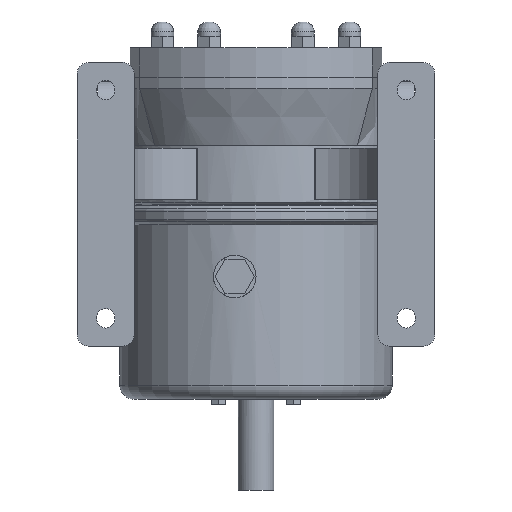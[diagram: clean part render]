
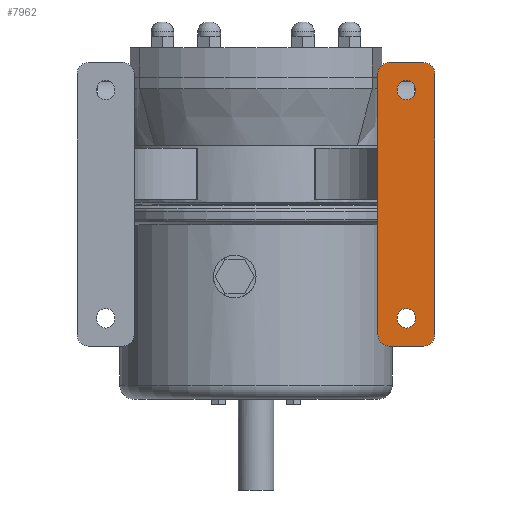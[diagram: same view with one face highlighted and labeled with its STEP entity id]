
A CAD part, front view. The second image highlights one B-rep face of the part: STEP entity #7962.
In plain terms, the highlighted planar face has unit normal (0, -1, 0).
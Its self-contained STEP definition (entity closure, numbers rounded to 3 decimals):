
#7815=CARTESIAN_POINT('',(106.,-158.,-110.5));
#7816=DIRECTION('',(0.0,1.0,0.0));
#7817=DIRECTION('',(0.0,0.0,1.0));
#7818=AXIS2_PLACEMENT_3D('',#7815,#7816,#7817);
#7819=PLANE('',#7818);
#7820=CARTESIAN_POINT('',(86.,-158.,-18.5));
#7821=VERTEX_POINT('',#7820);
#7822=CARTESIAN_POINT('',(94.,-158.,-10.5));
#7823=VERTEX_POINT('',#7822);
#7824=CARTESIAN_POINT('',(94.,-158.,-18.5));
#7825=DIRECTION('',(0.0,1.0,0.0));
#7826=DIRECTION('',(0.0,0.0,1.0));
#7827=AXIS2_PLACEMENT_3D('',#7824,#7825,#7826);
#7828=CIRCLE('',#7827,8.);
#7829=EDGE_CURVE('',#7821,#7823,#7828,.T.);
#7830=ORIENTED_EDGE('',*,*,#7829,.F.);
#7831=CARTESIAN_POINT('',(86.,-158.,-202.5));
#7832=VERTEX_POINT('',#7831);
#7833=CARTESIAN_POINT('',(86.,-158.,-202.5));
#7834=DIRECTION('',(0.0,0.0,1.0));
#7835=VECTOR('',#7834,184.0);
#7836=LINE('',#7833,#7835);
#7837=EDGE_CURVE('',#7832,#7821,#7836,.T.);
#7838=ORIENTED_EDGE('',*,*,#7837,.F.);
#7839=CARTESIAN_POINT('',(94.,-158.,-210.5));
#7840=VERTEX_POINT('',#7839);
#7841=CARTESIAN_POINT('',(94.,-158.,-202.5));
#7842=DIRECTION('',(0.0,1.0,0.0));
#7843=DIRECTION('',(-1.0,0.0,0.0));
#7844=AXIS2_PLACEMENT_3D('',#7841,#7842,#7843);
#7845=CIRCLE('',#7844,8.);
#7846=EDGE_CURVE('',#7840,#7832,#7845,.T.);
#7847=ORIENTED_EDGE('',*,*,#7846,.F.);
#7848=CARTESIAN_POINT('',(118.,-158.,-210.5));
#7849=VERTEX_POINT('',#7848);
#7850=CARTESIAN_POINT('',(118.,-158.,-210.5));
#7851=DIRECTION('',(-1.0,0.0,0.0));
#7852=VECTOR('',#7851,24.);
#7853=LINE('',#7850,#7852);
#7854=EDGE_CURVE('',#7849,#7840,#7853,.T.);
#7855=ORIENTED_EDGE('',*,*,#7854,.F.);
#7856=CARTESIAN_POINT('',(126.,-158.,-202.5));
#7857=VERTEX_POINT('',#7856);
#7858=CARTESIAN_POINT('',(118.,-158.,-202.5));
#7859=DIRECTION('',(0.0,1.0,0.0));
#7860=DIRECTION('',(0.0,0.0,-1.0));
#7861=AXIS2_PLACEMENT_3D('',#7858,#7859,#7860);
#7862=CIRCLE('',#7861,8.);
#7863=EDGE_CURVE('',#7857,#7849,#7862,.T.);
#7864=ORIENTED_EDGE('',*,*,#7863,.F.);
#7865=CARTESIAN_POINT('',(126.,-158.,-18.5));
#7866=VERTEX_POINT('',#7865);
#7867=CARTESIAN_POINT('',(126.,-158.,-18.5));
#7868=DIRECTION('',(0.0,0.0,-1.0));
#7869=VECTOR('',#7868,184.0);
#7870=LINE('',#7867,#7869);
#7871=EDGE_CURVE('',#7866,#7857,#7870,.T.);
#7872=ORIENTED_EDGE('',*,*,#7871,.F.);
#7873=CARTESIAN_POINT('',(118.,-158.,-10.5));
#7874=VERTEX_POINT('',#7873);
#7875=CARTESIAN_POINT('',(118.,-158.,-18.5));
#7876=DIRECTION('',(0.0,1.0,0.0));
#7877=DIRECTION('',(1.0,0.0,0.0));
#7878=AXIS2_PLACEMENT_3D('',#7875,#7876,#7877);
#7879=CIRCLE('',#7878,8.);
#7880=EDGE_CURVE('',#7874,#7866,#7879,.T.);
#7881=ORIENTED_EDGE('',*,*,#7880,.F.);
#7882=CARTESIAN_POINT('',(94.,-158.,-10.5));
#7883=DIRECTION('',(1.0,0.0,0.0));
#7884=VECTOR('',#7883,24.);
#7885=LINE('',#7882,#7884);
#7886=EDGE_CURVE('',#7823,#7874,#7885,.T.);
#7887=ORIENTED_EDGE('',*,*,#7886,.F.);
#7888=EDGE_LOOP('',(#7830,#7838,#7847,#7855,#7864,#7872,#7881,#7887));
#7889=FACE_OUTER_BOUND('',#7888,.T.);
#7890=CARTESIAN_POINT('',(99.5,-158.,-190.5));
#7891=VERTEX_POINT('',#7890);
#7892=CARTESIAN_POINT('',(112.5,-158.,-190.5));
#7893=VERTEX_POINT('',#7892);
#7894=CARTESIAN_POINT('',(106.,-158.,-190.5));
#7895=DIRECTION('',(0.0,1.0,0.0));
#7896=DIRECTION('',(1.0,0.0,0.0));
#7897=AXIS2_PLACEMENT_3D('',#7894,#7895,#7896);
#7898=CIRCLE('',#7897,6.5);
#7899=EDGE_CURVE('',#7891,#7893,#7898,.T.);
#7900=ORIENTED_EDGE('',*,*,#7899,.T.);
#7901=CARTESIAN_POINT('',(112.5,-158.,-191.3));
#7902=VERTEX_POINT('',#7901);
#7903=CARTESIAN_POINT('',(112.5,-158.,-190.5));
#7904=DIRECTION('',(0.0,0.0,-1.0));
#7905=VECTOR('',#7904,0.8);
#7906=LINE('',#7903,#7905);
#7907=EDGE_CURVE('',#7893,#7902,#7906,.T.);
#7908=ORIENTED_EDGE('',*,*,#7907,.T.);
#7909=CARTESIAN_POINT('',(99.5,-158.,-191.3));
#7910=VERTEX_POINT('',#7909);
#7911=CARTESIAN_POINT('',(106.,-158.,-191.3));
#7912=DIRECTION('',(0.0,1.0,0.0));
#7913=DIRECTION('',(-1.0,0.0,0.0));
#7914=AXIS2_PLACEMENT_3D('',#7911,#7912,#7913);
#7915=CIRCLE('',#7914,6.5);
#7916=EDGE_CURVE('',#7902,#7910,#7915,.T.);
#7917=ORIENTED_EDGE('',*,*,#7916,.T.);
#7918=CARTESIAN_POINT('',(99.5,-158.,-191.3));
#7919=DIRECTION('',(0.0,0.0,1.0));
#7920=VECTOR('',#7919,0.8);
#7921=LINE('',#7918,#7920);
#7922=EDGE_CURVE('',#7910,#7891,#7921,.T.);
#7923=ORIENTED_EDGE('',*,*,#7922,.T.);
#7924=EDGE_LOOP('',(#7900,#7908,#7917,#7923));
#7925=FACE_BOUND('',#7924,.T.);
#7926=CARTESIAN_POINT('',(99.5,-158.,-29.7));
#7927=VERTEX_POINT('',#7926);
#7928=CARTESIAN_POINT('',(112.5,-158.,-29.7));
#7929=VERTEX_POINT('',#7928);
#7930=CARTESIAN_POINT('',(106.,-158.,-29.7));
#7931=DIRECTION('',(0.0,1.0,0.0));
#7932=DIRECTION('',(1.0,0.0,0.0));
#7933=AXIS2_PLACEMENT_3D('',#7930,#7931,#7932);
#7934=CIRCLE('',#7933,6.5);
#7935=EDGE_CURVE('',#7927,#7929,#7934,.T.);
#7936=ORIENTED_EDGE('',*,*,#7935,.T.);
#7937=CARTESIAN_POINT('',(112.5,-158.,-30.5));
#7938=VERTEX_POINT('',#7937);
#7939=CARTESIAN_POINT('',(112.5,-158.,-29.7));
#7940=DIRECTION('',(0.0,0.0,-1.0));
#7941=VECTOR('',#7940,0.8);
#7942=LINE('',#7939,#7941);
#7943=EDGE_CURVE('',#7929,#7938,#7942,.T.);
#7944=ORIENTED_EDGE('',*,*,#7943,.T.);
#7945=CARTESIAN_POINT('',(99.5,-158.,-30.5));
#7946=VERTEX_POINT('',#7945);
#7947=CARTESIAN_POINT('',(106.,-158.,-30.5));
#7948=DIRECTION('',(0.0,1.0,0.0));
#7949=DIRECTION('',(-1.0,0.0,0.0));
#7950=AXIS2_PLACEMENT_3D('',#7947,#7948,#7949);
#7951=CIRCLE('',#7950,6.5);
#7952=EDGE_CURVE('',#7938,#7946,#7951,.T.);
#7953=ORIENTED_EDGE('',*,*,#7952,.T.);
#7954=CARTESIAN_POINT('',(99.5,-158.,-30.5));
#7955=DIRECTION('',(0.0,0.0,1.0));
#7956=VECTOR('',#7955,0.8);
#7957=LINE('',#7954,#7956);
#7958=EDGE_CURVE('',#7946,#7927,#7957,.T.);
#7959=ORIENTED_EDGE('',*,*,#7958,.T.);
#7960=EDGE_LOOP('',(#7936,#7944,#7953,#7959));
#7961=FACE_BOUND('',#7960,.T.);
#7962=ADVANCED_FACE('',(#7889,#7925,#7961),#7819,.F.);
